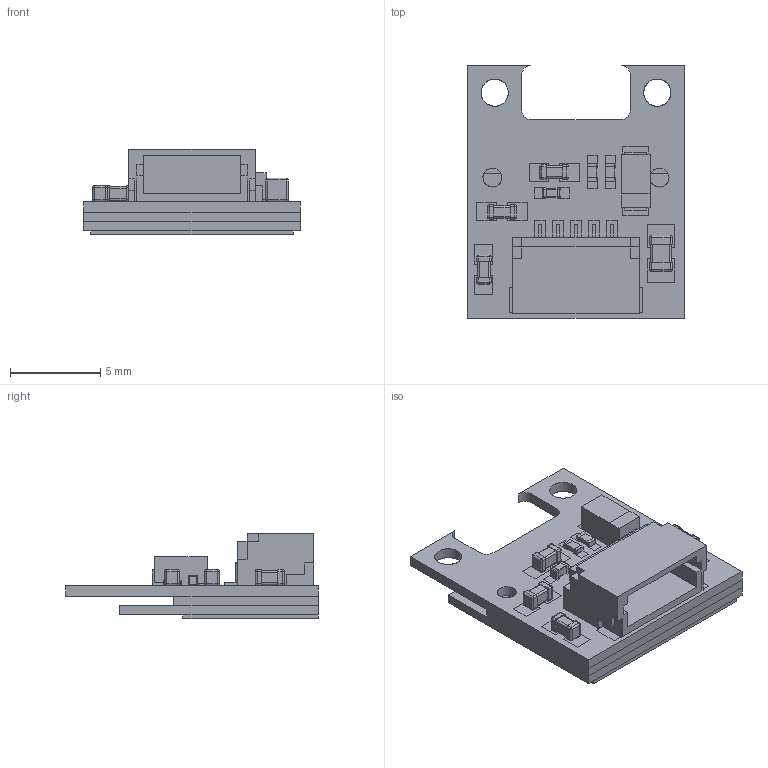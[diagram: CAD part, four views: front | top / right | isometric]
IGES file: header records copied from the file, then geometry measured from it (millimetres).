
Global section: file name: Filename.iges; native system: Open CASCADE 7.4; preprocessor: Open CASCADE IGES processor 7.4; date: 20200811.143438; units: millimetre
Bounding box: 12 x 14 x 4.72 mm (x, y, z)
Surface area: 1782.8 mm2 (no closed solid volume)
Topology: 0 solids, 0 shells, 1256 faces, 6670 edges, 10158 vertices
Faces by surface type: plane 952, revolution 304
